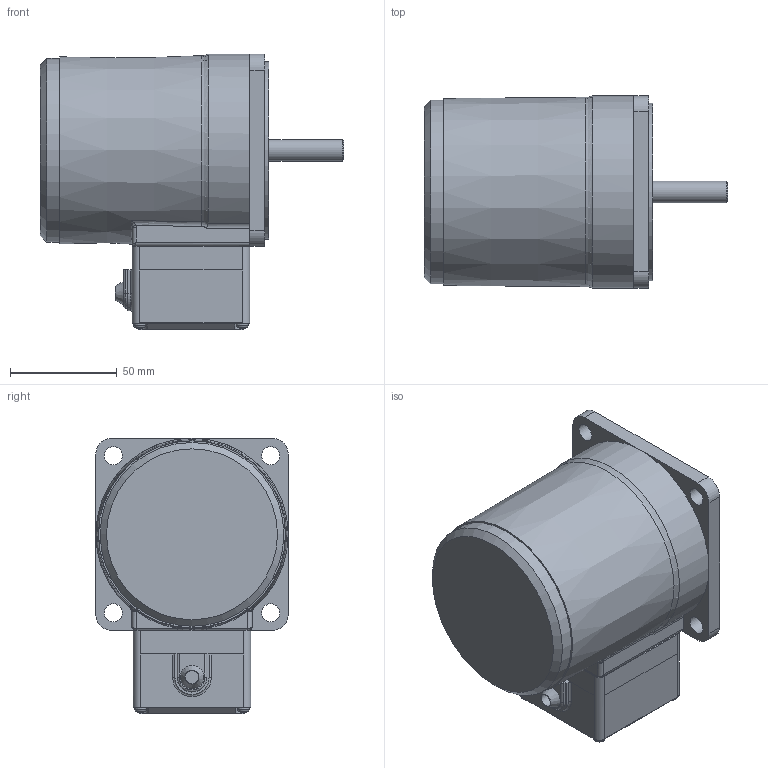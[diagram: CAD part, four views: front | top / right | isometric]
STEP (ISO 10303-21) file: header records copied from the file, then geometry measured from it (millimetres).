
FILE_DESCRIPTION(/* description */ (''),/* implementation_level */ '2;1');
FILE_NAME(/* name */ 'E:\도면작업\2016\0704) 미주향 SG 도면\3D MOTOR\TERMINAL BOX TYPE\INDUCTION TERMINAL BOX\SG9I40S_-T1.stp',/* time_stamp */ '2017-01-23T18:37:08+09:00',/* author */ ('jy-jung'),/* organization */ (''),/* preprocessor_version */ 'ST-DEVELOPER v15.6',/* originating_system */ 'Autodesk Inventor 2015',/* authorisation */ '');
FILE_SCHEMA (('AUTOMOTIVE_DESIGN { 1 0 10303 214 3 1 1 }'));
Length unit declared in the file: millimetre
Products named in the file (1): 부품1
Bounding box: 142 x 90 x 129 mm (x, y, z)
Volume: 778381.7 mm3; surface area: 58792.9 mm2
Topology: 1 solids, 2 shells, 249 faces, 661 edges, 423 vertices
Faces by surface type: plane 108, cylinder 51, cone 44, torus 24, bspline 18, sphere 4
Full cylindrical faces by diameter (mm): 8 x1, 8.5 x4, 10 x1, 40 x1, 83 x1, 86 x1
Entity records: 8583 total; most frequent: CARTESIAN_POINT 2488, ORIENTED_EDGE 1244, DIRECTION 1217, EDGE_CURVE 622, AXIS2_PLACEMENT_3D 473, VERTEX_POINT 413, EDGE_LOOP 293, LINE 271
